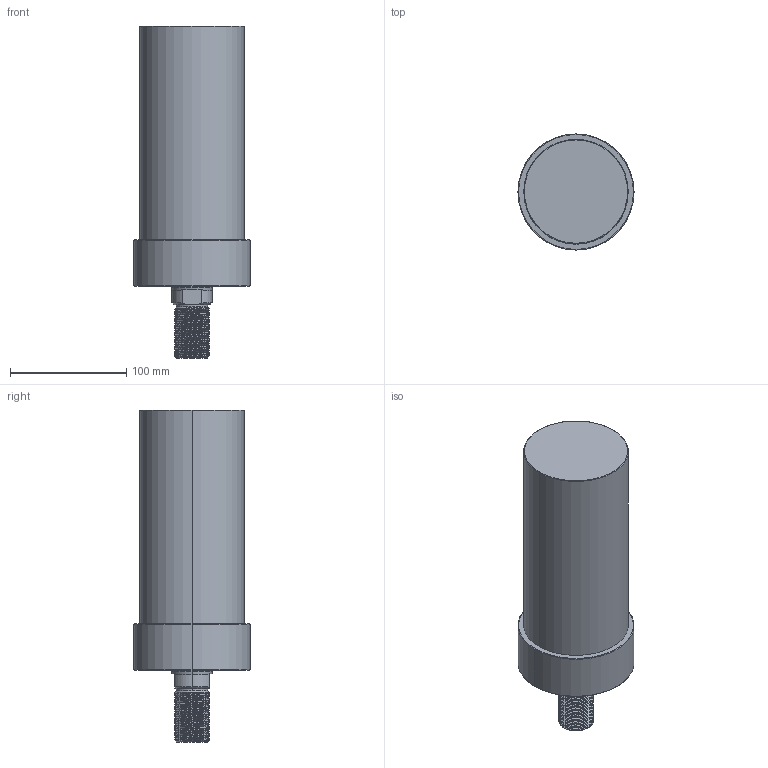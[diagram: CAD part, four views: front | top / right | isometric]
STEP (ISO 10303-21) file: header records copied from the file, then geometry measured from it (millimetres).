
FILE_DESCRIPTION (( 'STEP AP203' ), '1' );
FILE_NAME ('CLLU-090GT-140.STEP', '2020-01-15T01:34:34', ( '' ), ( '' ), 'SwSTEP 2.0', 'SolidWorks 2015', '' );
FILE_SCHEMA (( 'CONFIG_CONTROL_DESIGN' ));
Length unit declared in the file: millimetre
Products named in the file (1): CLLU-090GT-140
Bounding box: 100 x 100 x 286 mm (x, y, z)
Volume: 1522508.8 mm3; surface area: 92279.3 mm2
Topology: 1 solids, 1 shells, 125 faces, 326 edges, 204 vertices
Faces by surface type: cylinder 79, cone 26, plane 12, torus 6, bspline 2
Entity records: 7191 total; most frequent: CARTESIAN_POINT 4402, ORIENTED_EDGE 636, DIRECTION 515, EDGE_CURVE 318, VERTEX_POINT 204, AXIS2_PLACEMENT_3D 202, EDGE_LOOP 134, ADVANCED_FACE 125
